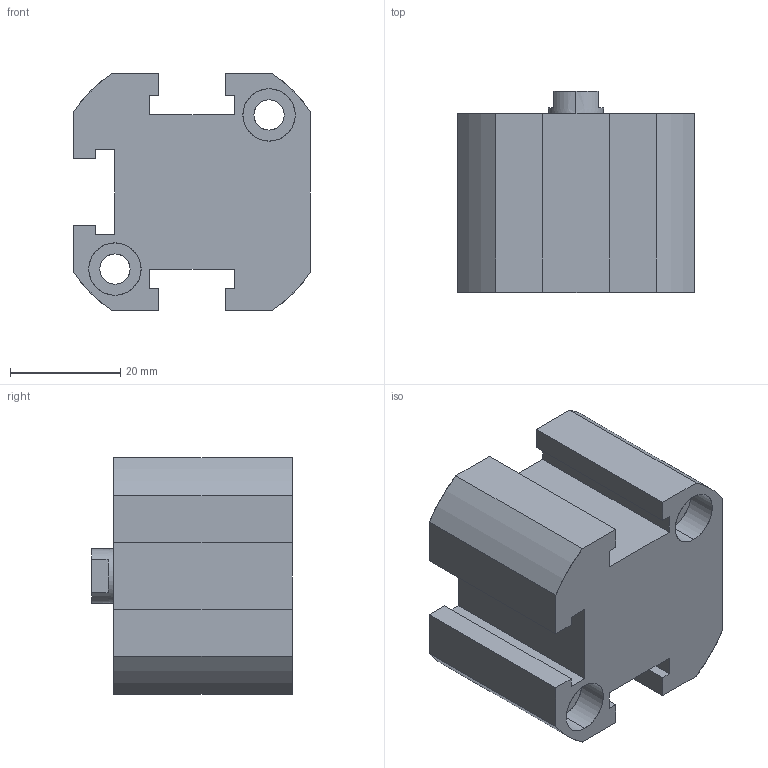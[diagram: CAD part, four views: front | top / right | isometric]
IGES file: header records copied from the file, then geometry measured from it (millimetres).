
Start section: SolidWorks IGES file using analytic representation for surfaces
Global section: file name: C:\Users\Toshiba\Desktop\XC#1-25-10.IGS; native system: SolidWorks 2014; preprocessor: SolidWorks 2014; author: Toshiba; date: 160523.153938; units: millimetre
Bounding box: 43 x 36.5 x 43 mm (x, y, z)
Surface area: 12214.4 mm2 (no closed solid volume)
Topology: 0 solids, 0 shells, 88 faces, 1258 edges, 1254 vertices
Faces by surface type: revolution 44, bspline 44
